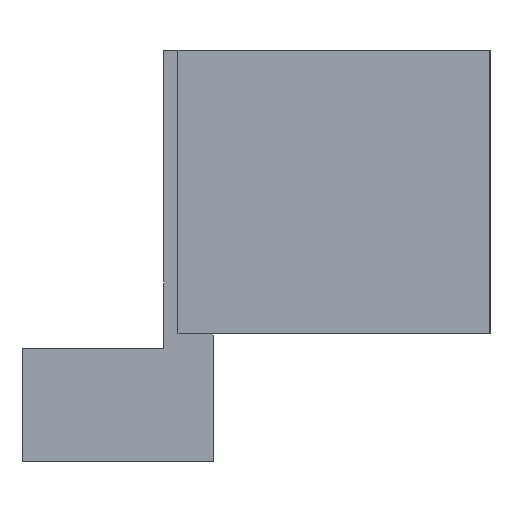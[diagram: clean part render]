
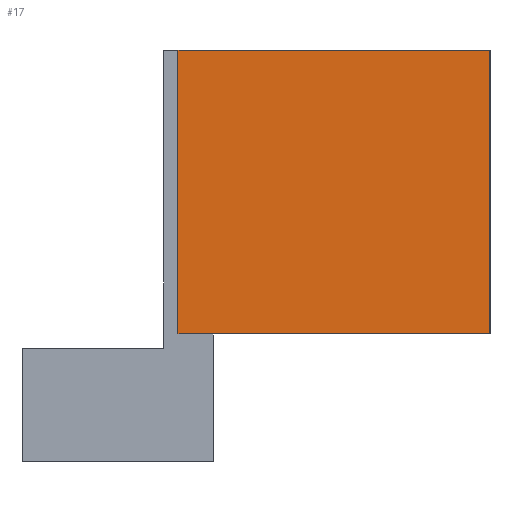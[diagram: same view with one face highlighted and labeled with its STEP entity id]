
A CAD part, left-side view. The second image highlights one B-rep face of the part: STEP entity #17.
In plain terms, the highlighted planar face has unit normal (-1, 0, 0).
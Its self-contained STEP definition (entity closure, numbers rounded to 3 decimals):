
#17 = ADVANCED_FACE('',(#18),#32,.F.);
#18 = FACE_BOUND('',#19,.F.);
#19 = EDGE_LOOP('',(#20,#55,#83,#111));
#20 = ORIENTED_EDGE('',*,*,#21,.F.);
#21 = EDGE_CURVE('',#22,#24,#26,.T.);
#22 = VERTEX_POINT('',#23);
#23 = CARTESIAN_POINT('',(-26.113,9.4,10.));
#24 = VERTEX_POINT('',#25);
#25 = CARTESIAN_POINT('',(-26.113,9.4,14.));
#26 = SURFACE_CURVE('',#27,(#31,#43),.PCURVE_S1.);
#27 = LINE('',#28,#29);
#28 = CARTESIAN_POINT('',(-26.113,9.4,10.));
#29 = VECTOR('',#30,1.);
#30 = DIRECTION('',(0.,0.,1.));
#31 = PCURVE('',#32,#37);
#32 = PLANE('',#33);
#33 = AXIS2_PLACEMENT_3D('',#34,#35,#36);
#34 = CARTESIAN_POINT('',(-26.113,9.4,10.));
#35 = DIRECTION('',(1.,0.,-0.));
#36 = DIRECTION('',(0.,0.,1.));
#37 = DEFINITIONAL_REPRESENTATION('',(#38),#42);
#38 = LINE('',#39,#40);
#39 = CARTESIAN_POINT('',(0.,0.));
#40 = VECTOR('',#41,1.);
#41 = DIRECTION('',(1.,0.));
#42 = ( GEOMETRIC_REPRESENTATION_CONTEXT(2) 
PARAMETRIC_REPRESENTATION_CONTEXT() REPRESENTATION_CONTEXT('2D SPACE',''
  ) );
#43 = PCURVE('',#44,#49);
#44 = PLANE('',#45);
#45 = AXIS2_PLACEMENT_3D('',#46,#47,#48);
#46 = CARTESIAN_POINT('',(-26.113,9.4,10.));
#47 = DIRECTION('',(-0.,1.,0.));
#48 = DIRECTION('',(0.,0.,1.));
#49 = DEFINITIONAL_REPRESENTATION('',(#50),#54);
#50 = LINE('',#51,#52);
#51 = CARTESIAN_POINT('',(0.,0.));
#52 = VECTOR('',#53,1.);
#53 = DIRECTION('',(1.,0.));
#54 = ( GEOMETRIC_REPRESENTATION_CONTEXT(2) 
PARAMETRIC_REPRESENTATION_CONTEXT() REPRESENTATION_CONTEXT('2D SPACE',''
  ) );
#55 = ORIENTED_EDGE('',*,*,#56,.T.);
#56 = EDGE_CURVE('',#22,#57,#59,.T.);
#57 = VERTEX_POINT('',#58);
#58 = CARTESIAN_POINT('',(-26.113,13.8,10.));
#59 = SURFACE_CURVE('',#60,(#64,#71),.PCURVE_S1.);
#60 = LINE('',#61,#62);
#61 = CARTESIAN_POINT('',(-26.113,9.4,10.));
#62 = VECTOR('',#63,1.);
#63 = DIRECTION('',(-0.,1.,0.));
#64 = PCURVE('',#32,#65);
#65 = DEFINITIONAL_REPRESENTATION('',(#66),#70);
#66 = LINE('',#67,#68);
#67 = CARTESIAN_POINT('',(0.,0.));
#68 = VECTOR('',#69,1.);
#69 = DIRECTION('',(0.,-1.));
#70 = ( GEOMETRIC_REPRESENTATION_CONTEXT(2) 
PARAMETRIC_REPRESENTATION_CONTEXT() REPRESENTATION_CONTEXT('2D SPACE',''
  ) );
#71 = PCURVE('',#72,#77);
#72 = PLANE('',#73);
#73 = AXIS2_PLACEMENT_3D('',#74,#75,#76);
#74 = CARTESIAN_POINT('',(-26.113,9.4,10.));
#75 = DIRECTION('',(0.,0.,1.));
#76 = DIRECTION('',(1.,0.,-0.));
#77 = DEFINITIONAL_REPRESENTATION('',(#78),#82);
#78 = LINE('',#79,#80);
#79 = CARTESIAN_POINT('',(0.,0.));
#80 = VECTOR('',#81,1.);
#81 = DIRECTION('',(0.,1.));
#82 = ( GEOMETRIC_REPRESENTATION_CONTEXT(2) 
PARAMETRIC_REPRESENTATION_CONTEXT() REPRESENTATION_CONTEXT('2D SPACE',''
  ) );
#83 = ORIENTED_EDGE('',*,*,#84,.T.);
#84 = EDGE_CURVE('',#57,#85,#87,.T.);
#85 = VERTEX_POINT('',#86);
#86 = CARTESIAN_POINT('',(-26.113,13.8,14.));
#87 = SURFACE_CURVE('',#88,(#92,#99),.PCURVE_S1.);
#88 = LINE('',#89,#90);
#89 = CARTESIAN_POINT('',(-26.113,13.8,10.));
#90 = VECTOR('',#91,1.);
#91 = DIRECTION('',(0.,0.,1.));
#92 = PCURVE('',#32,#93);
#93 = DEFINITIONAL_REPRESENTATION('',(#94),#98);
#94 = LINE('',#95,#96);
#95 = CARTESIAN_POINT('',(0.,-4.4));
#96 = VECTOR('',#97,1.);
#97 = DIRECTION('',(1.,0.));
#98 = ( GEOMETRIC_REPRESENTATION_CONTEXT(2) 
PARAMETRIC_REPRESENTATION_CONTEXT() REPRESENTATION_CONTEXT('2D SPACE',''
  ) );
#99 = PCURVE('',#100,#105);
#100 = PLANE('',#101);
#101 = AXIS2_PLACEMENT_3D('',#102,#103,#104);
#102 = CARTESIAN_POINT('',(-26.113,13.8,10.));
#103 = DIRECTION('',(-0.,1.,0.));
#104 = DIRECTION('',(0.,0.,1.));
#105 = DEFINITIONAL_REPRESENTATION('',(#106),#110);
#106 = LINE('',#107,#108);
#107 = CARTESIAN_POINT('',(0.,0.));
#108 = VECTOR('',#109,1.);
#109 = DIRECTION('',(1.,0.));
#110 = ( GEOMETRIC_REPRESENTATION_CONTEXT(2) 
PARAMETRIC_REPRESENTATION_CONTEXT() REPRESENTATION_CONTEXT('2D SPACE',''
  ) );
#111 = ORIENTED_EDGE('',*,*,#112,.F.);
#112 = EDGE_CURVE('',#24,#85,#113,.T.);
#113 = SURFACE_CURVE('',#114,(#118,#125),.PCURVE_S1.);
#114 = LINE('',#115,#116);
#115 = CARTESIAN_POINT('',(-26.113,9.4,14.));
#116 = VECTOR('',#117,1.);
#117 = DIRECTION('',(-0.,1.,0.));
#118 = PCURVE('',#32,#119);
#119 = DEFINITIONAL_REPRESENTATION('',(#120),#124);
#120 = LINE('',#121,#122);
#121 = CARTESIAN_POINT('',(4.,0.));
#122 = VECTOR('',#123,1.);
#123 = DIRECTION('',(0.,-1.));
#124 = ( GEOMETRIC_REPRESENTATION_CONTEXT(2) 
PARAMETRIC_REPRESENTATION_CONTEXT() REPRESENTATION_CONTEXT('2D SPACE',''
  ) );
#125 = PCURVE('',#126,#131);
#126 = PLANE('',#127);
#127 = AXIS2_PLACEMENT_3D('',#128,#129,#130);
#128 = CARTESIAN_POINT('',(-26.113,9.4,14.));
#129 = DIRECTION('',(0.,0.,1.));
#130 = DIRECTION('',(1.,0.,-0.));
#131 = DEFINITIONAL_REPRESENTATION('',(#132),#136);
#132 = LINE('',#133,#134);
#133 = CARTESIAN_POINT('',(0.,0.));
#134 = VECTOR('',#135,1.);
#135 = DIRECTION('',(0.,1.));
#136 = ( GEOMETRIC_REPRESENTATION_CONTEXT(2) 
PARAMETRIC_REPRESENTATION_CONTEXT() REPRESENTATION_CONTEXT('2D SPACE',''
  ) );
